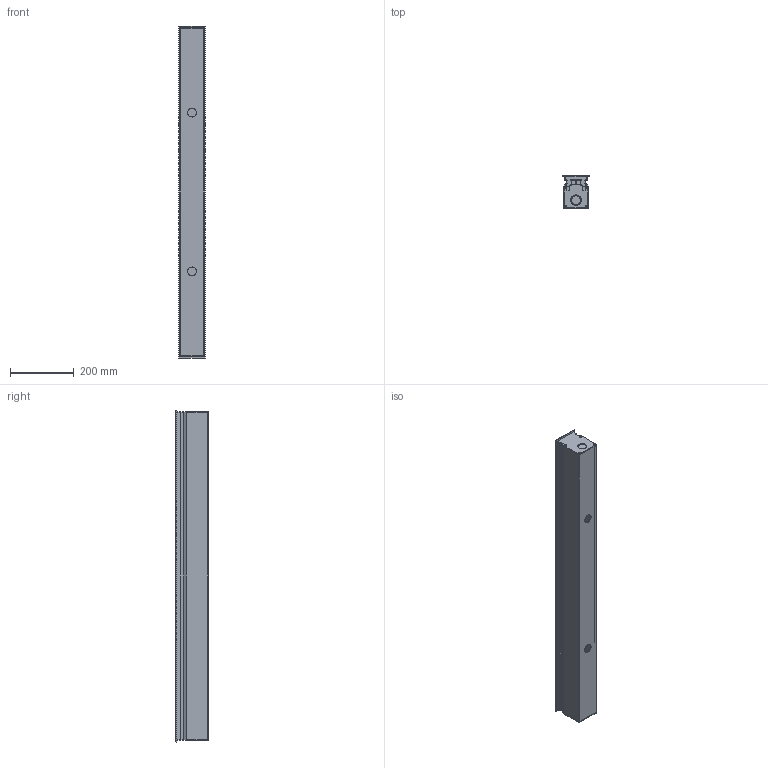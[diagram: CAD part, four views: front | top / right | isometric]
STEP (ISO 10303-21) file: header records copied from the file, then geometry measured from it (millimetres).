
FILE_DESCRIPTION((''),'2;1');
FILE_NAME('XB2RKB2457_ASM','2021-09-30T',('Administrator'),(''),'PRO/ENGINEER BY PARAMETRIC TECHNOLOGY CORPORATION, 2014000','PRO/ENGINEER BY PARAMETRIC TECHNOLOGY CORPORATION, 2014000','');
FILE_SCHEMA(('CONFIG_CONTROL_DESIGN'));
Products named in the file (27): 2RL-24DT-YOUBIAN; YUMAITONG-YUUBIAN-24; YUMAIJIANZUOYOUGAI; 2RQ-02; PRT0012; YUMAIJIAN-YBIAN-24_ASM; ZUOYOUGAIGUIJIAODIAN; ____-____7; ____2; PG9_____ASM_ASM_ASM_ASM; 2R-24MIANGAIYOUBIANKUANG; 2R-24BL; 50W-QUDONG; 2RLZUOYOUGAI; M12; 2RLZUOYOUGAI-002; SANREBAN; XINGUANGYUANBAN; XIN-LENS; XINGUANGYUAN_ASM; YABAN; ZHUANZHOU-01; ZHUANZHOU-02; M3LUOZHU; FANGXUANWANG; XUANZHUAN_ASM; XB2RKB2457_ASM
Assembly tree (47 placements, depth 4):
  XB2RKB2457_ASM
    2RL-24DT-YOUBIAN
    YUMAIJIAN-YBIAN-24_ASM
      YUMAITONG-YUUBIAN-24
      YUMAIJIANZUOYOUGAI  x2
      2RQ-02
      PRT0012
    ZUOYOUGAIGUIJIAODIAN  x2
    PG9_____ASM_ASM_ASM_ASM
      ____-____7
      ____2
    2R-24MIANGAIYOUBIANKUANG
    2R-24BL
    50W-QUDONG
    2RLZUOYOUGAI
    M12
    2RLZUOYOUGAI-002
    XUANZHUAN_ASM
      SANREBAN
      XINGUANGYUAN_ASM  x4
        XINGUANGYUANBAN
        XIN-LENS
      YABAN  x4
      ZHUANZHOU-01
      ZHUANZHOU-02
      M3LUOZHU  x6
      FANGXUANWANG  x4
Bounding box: 83 x 103.3 x 1045 mm (x, y, z)
Volume: 2669715 mm3; surface area: 1637050.1 mm2
Topology: 61 solids, 61 shells, 2915 faces, 7507 edges, 4898 vertices
Faces by surface type: plane 1779, cylinder 879, cone 135, extrusion 66, bspline 32, torus 24
Entity records: 63363 total; most frequent: CARTESIAN_POINT 21284, DIRECTION 8626, ORIENTED_EDGE 8542, EDGE_CURVE 4271, AXIS2_PLACEMENT_3D 2929, VECTOR 2768, VERTEX_POINT 2760, LINE 2702
